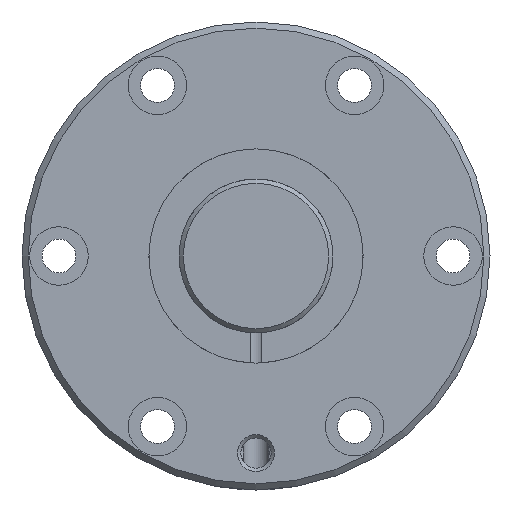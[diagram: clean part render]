
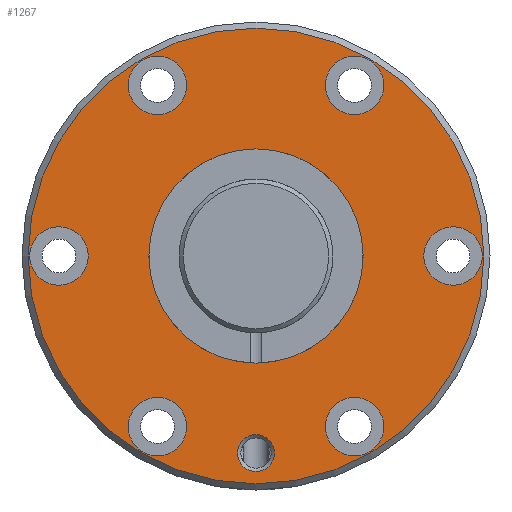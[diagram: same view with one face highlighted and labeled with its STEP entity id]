
A CAD part, left-side view. The second image highlights one B-rep face of the part: STEP entity #1267.
In plain terms, the highlighted planar face has unit normal (-1, 0, 0).
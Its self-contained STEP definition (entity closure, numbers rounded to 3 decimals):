
#314=ORIENTED_EDGE('',*,*,#563,.T.);
#315=ORIENTED_EDGE('',*,*,#615,.T.);
#316=ORIENTED_EDGE('',*,*,#616,.T.);
#317=ORIENTED_EDGE('',*,*,#617,.T.);
#318=ORIENTED_EDGE('',*,*,#618,.T.);
#319=ORIENTED_EDGE('',*,*,#619,.T.);
#320=ORIENTED_EDGE('',*,*,#620,.T.);
#321=ORIENTED_EDGE('',*,*,#621,.T.);
#322=ORIENTED_EDGE('',*,*,#614,.F.);
#563=EDGE_CURVE('',#721,#721,#819,.T.);
#614=EDGE_CURVE('',#764,#764,#830,.T.);
#615=EDGE_CURVE('',#765,#765,#831,.F.);
#616=EDGE_CURVE('',#766,#766,#832,.T.);
#617=EDGE_CURVE('',#767,#767,#833,.T.);
#618=EDGE_CURVE('',#768,#768,#834,.T.);
#619=EDGE_CURVE('',#769,#769,#835,.T.);
#620=EDGE_CURVE('',#770,#770,#836,.T.);
#621=EDGE_CURVE('',#771,#771,#837,.T.);
#721=VERTEX_POINT('',#2114);
#764=VERTEX_POINT('',#2270);
#765=VERTEX_POINT('',#2273);
#766=VERTEX_POINT('',#2275);
#767=VERTEX_POINT('',#2277);
#768=VERTEX_POINT('',#2279);
#769=VERTEX_POINT('',#2281);
#770=VERTEX_POINT('',#2283);
#771=VERTEX_POINT('',#2285);
#819=CIRCLE('',#1385,17.4);
#830=CIRCLE('',#1408,37.);
#831=CIRCLE('',#1410,4.75);
#832=CIRCLE('',#1411,3.);
#833=CIRCLE('',#1412,4.75);
#834=CIRCLE('',#1413,4.75);
#835=CIRCLE('',#1414,4.75);
#836=CIRCLE('',#1415,4.75);
#837=CIRCLE('',#1416,4.75);
#931=EDGE_LOOP('',(#314));
#932=EDGE_LOOP('',(#315));
#933=EDGE_LOOP('',(#316));
#934=EDGE_LOOP('',(#317));
#935=EDGE_LOOP('',(#318));
#936=EDGE_LOOP('',(#319));
#937=EDGE_LOOP('',(#320));
#938=EDGE_LOOP('',(#321));
#939=EDGE_LOOP('',(#322));
#1083=FACE_BOUND('',#931,.T.);
#1084=FACE_BOUND('',#932,.T.);
#1085=FACE_BOUND('',#933,.T.);
#1086=FACE_BOUND('',#934,.T.);
#1087=FACE_BOUND('',#935,.T.);
#1088=FACE_BOUND('',#936,.T.);
#1089=FACE_BOUND('',#937,.T.);
#1090=FACE_BOUND('',#938,.T.);
#1091=FACE_BOUND('',#939,.T.);
#1213=PLANE('',#1409);
#1267=ADVANCED_FACE('',(#1083,#1084,#1085,#1086,#1087,#1088,#1089,#1090,
#1091),#1213,.T.);
#1385=AXIS2_PLACEMENT_3D('',#2113,#1616,#1617);
#1408=AXIS2_PLACEMENT_3D('',#2269,#1696,#1697);
#1409=AXIS2_PLACEMENT_3D('',#2271,#1698,#1699);
#1410=AXIS2_PLACEMENT_3D('',#2272,#1700,#1701);
#1411=AXIS2_PLACEMENT_3D('',#2274,#1702,#1703);
#1412=AXIS2_PLACEMENT_3D('',#2276,#1704,#1705);
#1413=AXIS2_PLACEMENT_3D('',#2278,#1706,#1707);
#1414=AXIS2_PLACEMENT_3D('',#2280,#1708,#1709);
#1415=AXIS2_PLACEMENT_3D('',#2282,#1710,#1711);
#1416=AXIS2_PLACEMENT_3D('',#2284,#1712,#1713);
#1616=DIRECTION('',(1.,0.,0.));
#1617=DIRECTION('',(0.,0.,-1.));
#1696=DIRECTION('',(1.,0.,0.));
#1697=DIRECTION('',(0.,0.,-1.));
#1698=DIRECTION('',(-1.,0.,0.));
#1699=DIRECTION('',(0.,0.,1.));
#1700=DIRECTION('',(-1.,0.,0.));
#1701=DIRECTION('',(0.,0.,1.));
#1702=DIRECTION('',(1.,0.,0.));
#1703=DIRECTION('',(0.,0.,-1.));
#1704=DIRECTION('',(1.,0.,0.));
#1705=DIRECTION('',(0.,0.,-1.));
#1706=DIRECTION('',(1.,0.,0.));
#1707=DIRECTION('',(0.,0.,-1.));
#1708=DIRECTION('',(1.,0.,0.));
#1709=DIRECTION('',(0.,0.,-1.));
#1710=DIRECTION('',(1.,0.,0.));
#1711=DIRECTION('',(0.,0.,-1.));
#1712=DIRECTION('',(1.,0.,0.));
#1713=DIRECTION('',(0.,0.,-1.));
#2113=CARTESIAN_POINT('',(0.,0.,0.));
#2114=CARTESIAN_POINT('',(0.,0.,-17.4));
#2269=CARTESIAN_POINT('',(0.,0.,0.));
#2270=CARTESIAN_POINT('',(0.,0.,-37.));
#2271=CARTESIAN_POINT('',(0.,37.,0.));
#2272=CARTESIAN_POINT('',(0.,32.,0.));
#2273=CARTESIAN_POINT('',(0.,32.,4.75));
#2274=CARTESIAN_POINT('',(0.,0.,-32.));
#2275=CARTESIAN_POINT('',(0.,0.,-35.));
#2276=CARTESIAN_POINT('',(0.,16.,27.713));
#2277=CARTESIAN_POINT('',(0.,16.,22.963));
#2278=CARTESIAN_POINT('',(0.,-16.,-27.713));
#2279=CARTESIAN_POINT('',(0.,-16.,-32.463));
#2280=CARTESIAN_POINT('',(0.,-16.,27.713));
#2281=CARTESIAN_POINT('',(0.,-16.,22.963));
#2282=CARTESIAN_POINT('',(0.,16.,-27.713));
#2283=CARTESIAN_POINT('',(0.,16.,-32.463));
#2284=CARTESIAN_POINT('',(0.,-32.,0.));
#2285=CARTESIAN_POINT('',(0.,-32.,-4.75));
